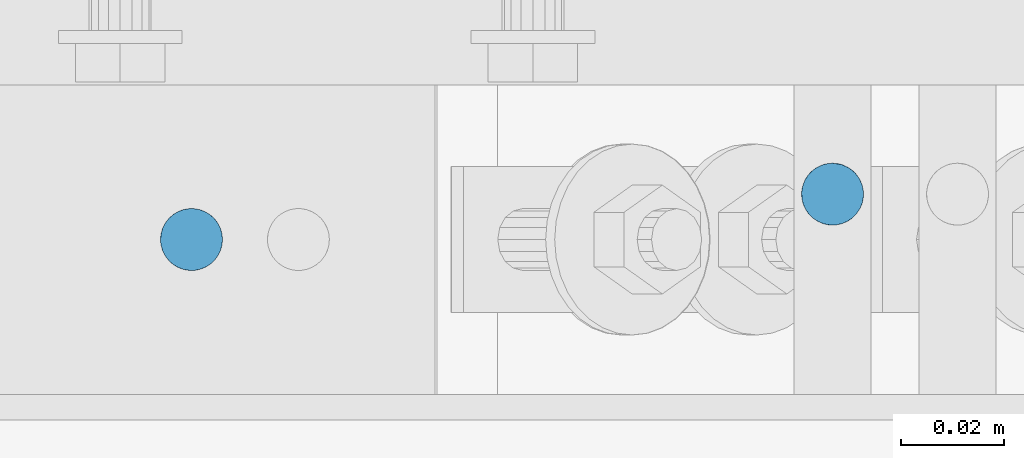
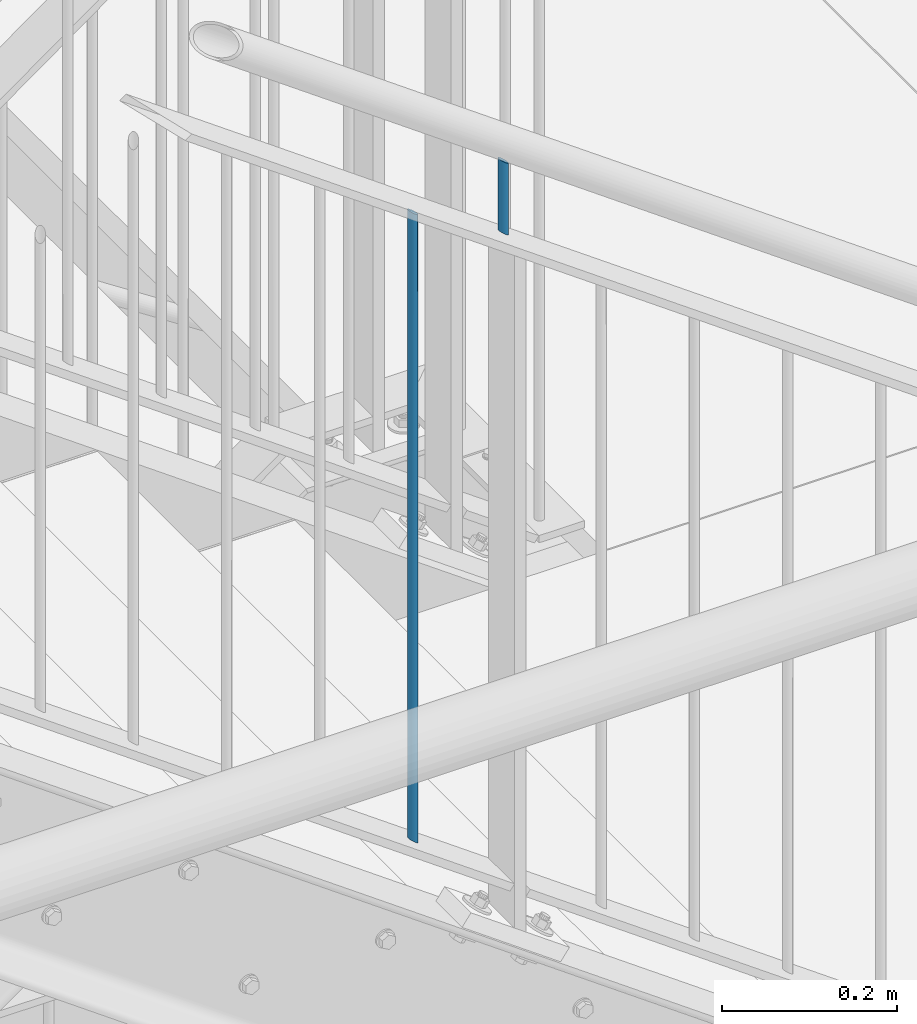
# One storey, part 41 of 817: 2 columns.
"""IFC2X3 building model written with IfcOpenShell, lengths in millimetres."""

from ifc_helpers import new_model, entity, si_unit, converted_unit, frame, origin, origin_with_axes, origin_2d, place, context, project, spatial, circle, extrude, clip, halfspace, material, element, save


model = new_model("IFC2X3")

# Units and contexts
model_context = context("Model", 3, precision=1e-09, world=origin_with_axes())
ifc_project = project(units=[si_unit("LENGTHUNIT", "METRE", prefix="MILLI"), si_unit("AREAUNIT", "SQUARE_METRE"), si_unit("VOLUMEUNIT", "CUBIC_METRE"), converted_unit("PLANEANGLEUNIT", "DEGREE", entity("IfcPlaneAngleMeasure", 0.01745329), si_unit("PLANEANGLEUNIT", "RADIAN"), dimensions=[0, 0, 0, 0, 0, 0, 0])], contexts=[model_context])

# Site, building, storey
site_placement = place(None, origin_with_axes())
site = spatial("IfcSite", under=ifc_project, at=site_placement, Name="Cnopf'sche Kinderklinik", CompositionType="ELEMENT")
building_placement = place(site_placement, origin_with_axes())
building = spatial("IfcBuilding", under=site, at=building_placement, Name="Struktur 1", CompositionType="ELEMENT")
storey_placement = place(building_placement, origin_with_axes())
storey = spatial("IfcBuildingStorey", under=building, at=storey_placement, Name="Default Storey", CompositionType="ELEMENT", Elevation=0.0)

# Columns
ifc_material = material(Name="S235JR")
column_1_placement = place(None, frame((6255.541974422, 4526.736971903, 18112.680421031), z_axis=(0.0, 0.0, 1.0), x_axis=(-1.0, 0.0, 0.0)))
element("IfcColumn", 1, at=column_1_placement, inside=storey, material=ifc_material, Name="Railing_Picket_Stair#69", ObjectType="Railing_Picket_Stair#69", context=model_context, shape_type="Clipping", body=[
    clip(clip(extrude(circle(Radius=6.0, at=origin_2d()), origin(), (0.0, 0.0, -1.0), 896.220460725), halfspace(frame((-4462.258375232, 4526.736971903, -3222.301305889), z_axis=(0.584187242, 0.0, -0.811618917), x_axis=(0.0, 1.0, 0.0)), True)), halfspace(frame((-4047.241875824, 4526.736971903, -3798.889114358), z_axis=(-0.584187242, 0.0, 0.811618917), x_axis=(0.0, -1.0, 0.0)), True)),
])
column_2_placement = place(None, frame((6379.791974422, 4535.536971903, 18135.568782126), z_axis=(0.0, 0.0, 1.0), x_axis=(0.0, 1.0, 0.0)))
element("IfcColumn", 2, at=column_2_placement, inside=storey, material=ifc_material, Name="Bar#10", ObjectType="Bar#10", context=model_context, shape_type="Clipping", body=[
    clip(clip(extrude(circle(Radius=6.0, at=origin_2d()), origin(), (0.0, 0.0, -1.0), 120.909520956), halfspace(frame((-4535.536971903, -4391.263989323, -3171.200951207), z_axis=(0.0, 0.584187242, -0.811618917), x_axis=(-1.0, 0.0, 0.0)), True)), halfspace(frame((-4535.536971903, -4343.851416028, -3237.071854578), z_axis=(0.0, -0.584187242, 0.811618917), x_axis=(1.0, 0.0, 0.0)), True)),
])

save(model, "model.ifc")
